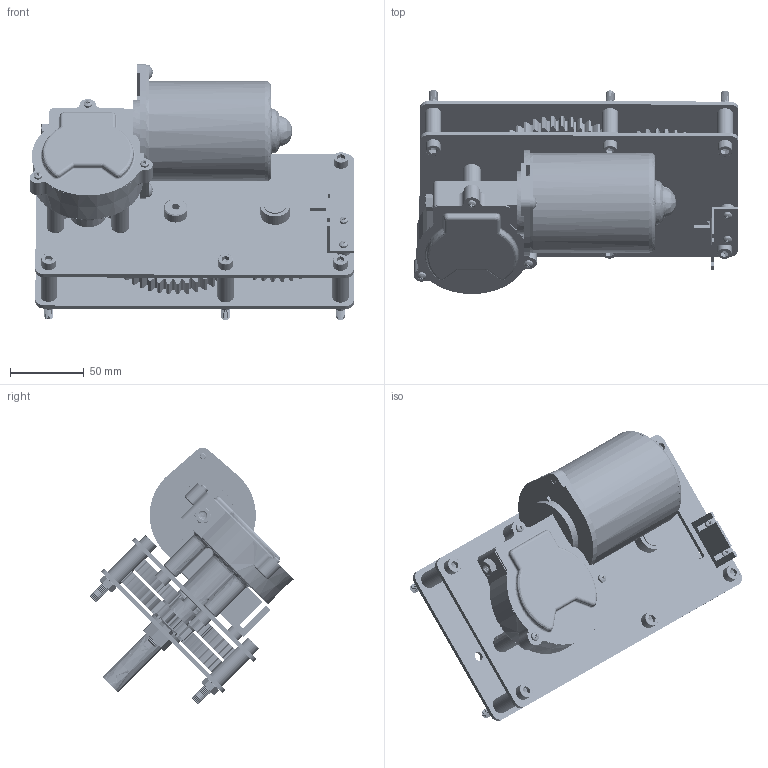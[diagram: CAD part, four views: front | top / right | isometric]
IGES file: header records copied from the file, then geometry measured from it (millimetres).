
Start section: SolidWorks IGES file using analytic representation for surfaces
Bounding box: 220.29 x 138.5 x 174.07 mm (x, y, z)
Surface area: 297599.8 mm2 (no closed solid volume)
Topology: 0 solids, 0 shells, 6406 faces, 49501 edges, 49443 vertices
Faces by surface type: bspline 3478, revolution 2928
